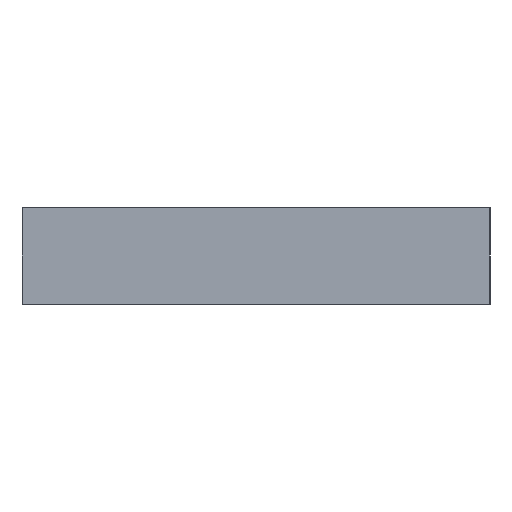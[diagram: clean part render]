
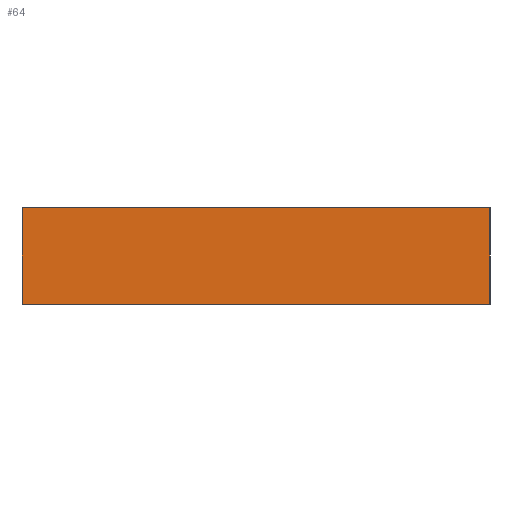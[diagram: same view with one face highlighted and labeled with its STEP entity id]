
A CAD part, left-side view. The second image highlights one B-rep face of the part: STEP entity #64.
In plain terms, the highlighted planar face has unit normal (-1, 0, 0).
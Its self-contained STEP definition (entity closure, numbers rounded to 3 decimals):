
#64 = ADVANCED_FACE( '', ( #131 ), #132, .F. );
#131 = FACE_OUTER_BOUND( '', #200, .T. );
#132 = PLANE( '', #201 );
#200 = EDGE_LOOP( '', ( #304, #305, #306, #307 ) );
#201 = AXIS2_PLACEMENT_3D( '', #308, #309, #310 );
#304 = ORIENTED_EDGE( '', *, *, #389, .T. );
#305 = ORIENTED_EDGE( '', *, *, #366, .F. );
#306 = ORIENTED_EDGE( '', *, *, #399, .F. );
#307 = ORIENTED_EDGE( '', *, *, #400, .T. );
#308 = CARTESIAN_POINT( '', ( -6., 0., 3.5 ) );
#309 = DIRECTION( '', ( 1., 0., 0. ) );
#310 = DIRECTION( '', ( 0., 0., -1. ) );
#366 = EDGE_CURVE( '', #418, #413, #420, .T. );
#389 = EDGE_CURVE( '', #456, #413, #457, .T. );
#399 = EDGE_CURVE( '', #470, #418, #471, .T. );
#400 = EDGE_CURVE( '', #470, #456, #472, .T. );
#413 = VERTEX_POINT( '', #487 );
#418 = VERTEX_POINT( '', #494 );
#420 = LINE( '', #497, #498 );
#456 = VERTEX_POINT( '', #544 );
#457 = LINE( '', #545, #546 );
#470 = VERTEX_POINT( '', #562 );
#471 = LINE( '', #563, #564 );
#472 = LINE( '', #565, #566 );
#487 = CARTESIAN_POINT( '', ( -6., -34., -3.5 ) );
#494 = CARTESIAN_POINT( '', ( -6., -34., 3.5 ) );
#497 = CARTESIAN_POINT( '', ( -6., -34., 3.5 ) );
#498 = VECTOR( '', #587, 1000. );
#544 = CARTESIAN_POINT( '', ( -6., 0., -3.5 ) );
#545 = CARTESIAN_POINT( '', ( -6., 0., -3.5 ) );
#546 = VECTOR( '', #613, 1000. );
#562 = CARTESIAN_POINT( '', ( -6., 0., 3.5 ) );
#563 = CARTESIAN_POINT( '', ( -6., 0., 3.5 ) );
#564 = VECTOR( '', #623, 1000. );
#565 = CARTESIAN_POINT( '', ( -6., 0., 3.5 ) );
#566 = VECTOR( '', #624, 1000. );
#587 = DIRECTION( '', ( 0., 0., -1. ) );
#613 = DIRECTION( '', ( 0., -1., 0. ) );
#623 = DIRECTION( '', ( 0., -1., 0. ) );
#624 = DIRECTION( '', ( 0., 0., -1. ) );
